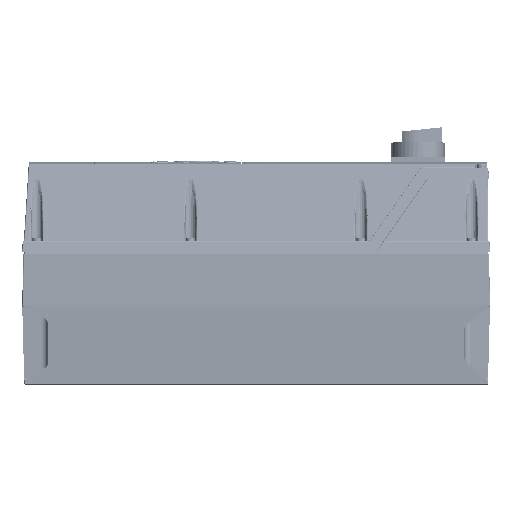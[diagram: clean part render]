
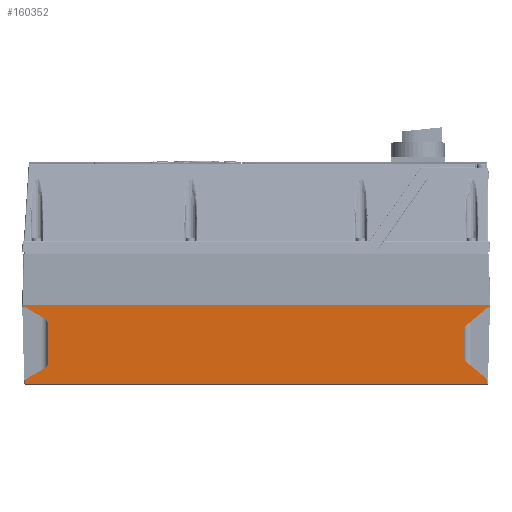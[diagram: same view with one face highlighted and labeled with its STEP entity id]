
A CAD part, left-side view. The second image highlights one B-rep face of the part: STEP entity #160352.
In plain terms, the highlighted planar face has unit normal (-1, 0, -0.026).
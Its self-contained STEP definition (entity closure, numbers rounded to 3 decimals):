
#12190=CARTESIAN_POINT('',(-120.983,-209.245,
10.616));
#12442=CARTESIAN_POINT('',(-119.673,-188.786,
-39.426));
#12443=CARTESIAN_POINT('',(-119.68,-188.488,
-39.176));
#12444=CARTESIAN_POINT('',(-119.694,-187.982,
-38.635));
#12445=CARTESIAN_POINT('',(-119.718,-187.435,
-37.724));
#12446=CARTESIAN_POINT('',(-119.744,-187.089,
-36.72));
#12447=CARTESIAN_POINT('',(-119.763,-187.,-35.984));
#12448=CARTESIAN_POINT('',(-119.773,-187.,-35.595));
#12594=CARTESIAN_POINT('',(-119.267,-207.267,
-54.933));
#12801=CARTESIAN_POINT('',(-120.434,-187.,-10.381));
#12802=CARTESIAN_POINT('',(-120.444,-187.,-9.992));
#12803=CARTESIAN_POINT('',(-120.463,-187.089,
-9.257));
#12804=CARTESIAN_POINT('',(-120.489,-187.435,
-8.252));
#12805=CARTESIAN_POINT('',(-120.513,-187.982,
-7.341));
#12806=CARTESIAN_POINT('',(-120.527,-188.488,
-6.8));
#12807=CARTESIAN_POINT('',(-120.534,-188.786,
-6.551));
#12809=DIRECTION('',(-0.013,-0.866,0.5));
#12810=VECTOR('',#12809,20.51);
#12811=CARTESIAN_POINT('',(-119.26,207.261,
-55.185));
#12812=LINE('',#12811,#12810);
#12813=DIRECTION('',(-0.026,0.,1.));
#12814=VECTOR('',#12813,35.698);
#12815=CARTESIAN_POINT('',(-119.642,187.,-40.601));
#12816=LINE('',#12815,#12814);
#12817=DIRECTION('',(-0.013,0.866,0.5));
#12818=VECTOR('',#12817,22.758);
#12819=CARTESIAN_POINT('',(-120.69,189.5,-0.586));
#12820=LINE('',#12819,#12818);
#12821=CARTESIAN_POINT('',(-121.,209.,11.25));
#12822=CARTESIAN_POINT('',(-121.,209.012,11.25));
#12823=CARTESIAN_POINT('',(-121.,209.029,
11.242));
#12824=CARTESIAN_POINT('',(-120.999,209.057,
11.217));
#12825=CARTESIAN_POINT('',(-120.998,209.084,
11.175));
#12826=CARTESIAN_POINT('',(-120.997,209.11,
11.119));
#12827=CARTESIAN_POINT('',(-120.994,209.141,
11.038));
#12828=CARTESIAN_POINT('',(-120.992,209.174,
10.93));
#12829=CARTESIAN_POINT('',(-120.989,209.196,
10.838));
#12830=CARTESIAN_POINT('',(-120.988,209.207,
10.792));
#12832=CARTESIAN_POINT('',(-120.983,-209.245,
10.616));
#12833=CARTESIAN_POINT('',(-120.985,-209.232,
10.679));
#12834=CARTESIAN_POINT('',(-120.987,-209.213,
10.771));
#12835=CARTESIAN_POINT('',(-120.991,-209.183,
10.891));
#12836=CARTESIAN_POINT('',(-120.993,-209.159,
10.978));
#12837=CARTESIAN_POINT('',(-120.995,-209.132,
11.062));
#12838=CARTESIAN_POINT('',(-120.997,-209.107,
11.127));
#12839=CARTESIAN_POINT('',(-120.998,-209.083,
11.176));
#12840=CARTESIAN_POINT('',(-120.999,-209.062,
11.209));
#12841=CARTESIAN_POINT('',(-121.,-209.037,
11.237));
#12842=CARTESIAN_POINT('',(-121.,-209.016,11.25));
#12843=CARTESIAN_POINT('',(-121.,-209.,11.25));
#12845=DIRECTION('',(0.017,0.766,-0.643));
#12846=VECTOR('',#12845,26.711);
#12847=CARTESIAN_POINT('',(-120.983,-209.245,
10.616));
#12848=LINE('',#12847,#12846);
#12849=DIRECTION('',(0.026,0.,-1.));
#12850=VECTOR('',#12849,25.223);
#12851=CARTESIAN_POINT('',(-120.434,-187.,-10.381));
#12852=LINE('',#12851,#12850);
#12853=DIRECTION('',(0.017,-0.766,-0.643));
#12854=VECTOR('',#12853,24.129);
#12855=CARTESIAN_POINT('',(-119.673,-188.786,
-39.426));
#12856=LINE('',#12855,#12854);
#12857=DIRECTION('',(0.026,0.026,-0.999));
#12858=VECTOR('',#12857,4.096);
#12859=CARTESIAN_POINT('',(-119.267,-207.267,
-54.933));
#12860=LINE('',#12859,#12858);
#12861=DIRECTION('',(0.,-1.,0.));
#12862=VECTOR('',#12861,414.32);
#12863=CARTESIAN_POINT('',(-119.16,207.16,
-59.026));
#12864=LINE('',#12863,#12862);
#12865=DIRECTION('',(-0.026,0.026,0.999));
#12866=VECTOR('',#12865,3.843);
#12867=CARTESIAN_POINT('',(-119.16,207.16,
-59.026));
#12868=LINE('',#12867,#12866);
#12911=CARTESIAN_POINT('',(-119.26,207.261,
-55.185));
#16692=CARTESIAN_POINT('',(-119.642,187.,-40.601));
#16693=CARTESIAN_POINT('',(-119.63,187.,-41.082));
#16694=CARTESIAN_POINT('',(-119.606,187.134,
-41.967));
#16695=CARTESIAN_POINT('',(-119.576,187.625,
-43.127));
#16696=CARTESIAN_POINT('',(-119.55,188.384,
-44.132));
#16697=CARTESIAN_POINT('',(-119.535,189.083,
-44.691));
#16698=CARTESIAN_POINT('',(-119.529,189.5,-44.931));
#16780=CARTESIAN_POINT('',(-120.69,189.5,-0.586));
#16781=CARTESIAN_POINT('',(-120.684,189.083,
-0.826));
#16782=CARTESIAN_POINT('',(-120.669,188.384,
-1.385));
#16783=CARTESIAN_POINT('',(-120.643,187.625,
-2.39));
#16784=CARTESIAN_POINT('',(-120.612,187.134,
-3.55));
#16785=CARTESIAN_POINT('',(-120.589,187.,-4.435));
#16786=CARTESIAN_POINT('',(-120.577,187.,-4.916));
#17046=DIRECTION('',(0.,-1.,0.));
#17047=VECTOR('',#17046,418.);
#17048=CARTESIAN_POINT('',(-121.,209.,11.25));
#17049=LINE('',#17048,#17047);
#125696=CARTESIAN_POINT('',(-121.,209.,11.25));
#125697=VERTEX_POINT('',#125696);
#125698=VERTEX_POINT('',#12830);
#125709=VERTEX_POINT('',#12190);
#125710=VERTEX_POINT('',#12843);
#125749=VERTEX_POINT('',#12911);
#125750=VERTEX_POINT('',#12594);
#125819=CARTESIAN_POINT('',(-119.16,207.16,
-59.026));
#125820=VERTEX_POINT('',#125819);
#125823=CARTESIAN_POINT('',(-119.16,-207.16,
-59.026));
#125824=VERTEX_POINT('',#125823);
#127638=CARTESIAN_POINT('',(-119.642,187.,-40.601));
#127639=CARTESIAN_POINT('',(-120.577,187.,-4.916));
#127640=VERTEX_POINT('',#127638);
#127641=VERTEX_POINT('',#127639);
#127642=CARTESIAN_POINT('',(-120.434,-187.,-10.381));
#127643=CARTESIAN_POINT('',(-119.773,-187.,-35.595));
#127644=VERTEX_POINT('',#127642);
#127645=VERTEX_POINT('',#127643);
#127652=CARTESIAN_POINT('',(-120.69,189.5,-0.586));
#127653=VERTEX_POINT('',#127652);
#127654=CARTESIAN_POINT('',(-120.534,-188.786,
-6.551));
#127655=VERTEX_POINT('',#127654);
#127660=CARTESIAN_POINT('',(-119.529,189.5,-44.931));
#127661=VERTEX_POINT('',#127660);
#127662=CARTESIAN_POINT('',(-119.673,-188.786,
-39.426));
#127663=VERTEX_POINT('',#127662);
#160319=CARTESIAN_POINT('',(-121.,210.,11.25));
#160320=DIRECTION('',(-1.,0.,-0.026));
#160321=DIRECTION('',(0.,-1.,0.));
#160322=AXIS2_PLACEMENT_3D('',#160319,#160320,#160321);
#160323=PLANE('',#160322);
#160325=ORIENTED_EDGE('',*,*,#160324,.T.);
#160327=ORIENTED_EDGE('',*,*,#160326,.F.);
#160329=ORIENTED_EDGE('',*,*,#160328,.T.);
#160331=ORIENTED_EDGE('',*,*,#160330,.F.);
#160333=ORIENTED_EDGE('',*,*,#160332,.T.);
#160335=ORIENTED_EDGE('',*,*,#160334,.F.);
#160337=ORIENTED_EDGE('',*,*,#160336,.T.);
#160338=ORIENTED_EDGE('',*,*,#159074,.F.);
#160339=ORIENTED_EDGE('',*,*,#159096,.T.);
#160340=ORIENTED_EDGE('',*,*,#160313,.F.);
#160341=ORIENTED_EDGE('',*,*,#159521,.T.);
#160342=ORIENTED_EDGE('',*,*,#159546,.F.);
#160343=ORIENTED_EDGE('',*,*,#159858,.T.);
#160345=ORIENTED_EDGE('',*,*,#160344,.T.);
#160347=ORIENTED_EDGE('',*,*,#160346,.F.);
#160349=ORIENTED_EDGE('',*,*,#160348,.T.);
#160350=EDGE_LOOP('',(#160325,#160327,#160329,#160331,#160333,#160335,#160337,
#160338,#160339,#160340,#160341,#160342,#160343,#160345,#160347,#160349));
#160351=FACE_OUTER_BOUND('',#160350,.F.);
#12449=B_SPLINE_CURVE_WITH_KNOTS('',3,(#12442,#12443,#12444,#12445,#12446,
#12447,#12448),.UNSPECIFIED.,.F.,.F.,(4,1,1,1,4),(0.,0.25,0.5,0.75,
1.),.UNSPECIFIED.);
#12808=B_SPLINE_CURVE_WITH_KNOTS('',3,(#12801,#12802,#12803,#12804,#12805,
#12806,#12807),.UNSPECIFIED.,.F.,.F.,(4,1,1,1,4),(0.,0.25,0.5,0.75,
1.),.UNSPECIFIED.);
#12831=B_SPLINE_CURVE_WITH_KNOTS('',3,(#12821,#12822,#12823,#12824,#12825,
#12826,#12827,#12828,#12829,#12830),.UNSPECIFIED.,.F.,.F.,(4,1,1,1,1,1,1,4),(
0.,0.063,0.125,0.25,0.375,0.5,0.75,1.),.UNSPECIFIED.);
#12844=B_SPLINE_CURVE_WITH_KNOTS('',3,(#12832,#12833,#12834,#12835,#12836,
#12837,#12838,#12839,#12840,#12841,#12842,#12843),.UNSPECIFIED.,.F.,.F.,(4,1,1,
1,1,1,1,1,1,4),(0.,0.25,0.375,0.5,0.625,0.75,0.813,0.875,
0.938,1.),.UNSPECIFIED.);
#16699=B_SPLINE_CURVE_WITH_KNOTS('',3,(#16692,#16693,#16694,#16695,#16696,
#16697,#16698),.UNSPECIFIED.,.F.,.F.,(4,1,1,1,4),(0.,0.25,0.5,0.75,
1.),.UNSPECIFIED.);
#16787=B_SPLINE_CURVE_WITH_KNOTS('',3,(#16780,#16781,#16782,#16783,#16784,
#16785,#16786),.UNSPECIFIED.,.F.,.F.,(4,1,1,1,4),(0.,0.25,0.5,0.75,
1.),.UNSPECIFIED.);
#159074=EDGE_CURVE('',#125709,#125710,#12844,.T.);
#159096=EDGE_CURVE('',#125709,#127655,#12848,.T.);
#159521=EDGE_CURVE('',#127644,#127645,#12852,.T.);
#159546=EDGE_CURVE('',#127663,#127645,#12449,.T.);
#159858=EDGE_CURVE('',#127663,#125750,#12856,.T.);
#160313=EDGE_CURVE('',#127644,#127655,#12808,.T.);
#160324=EDGE_CURVE('',#125749,#127661,#12812,.T.);
#160326=EDGE_CURVE('',#127640,#127661,#16699,.T.);
#160328=EDGE_CURVE('',#127640,#127641,#12816,.T.);
#160330=EDGE_CURVE('',#127653,#127641,#16787,.T.);
#160332=EDGE_CURVE('',#127653,#125698,#12820,.T.);
#160334=EDGE_CURVE('',#125697,#125698,#12831,.T.);
#160336=EDGE_CURVE('',#125697,#125710,#17049,.T.);
#160344=EDGE_CURVE('',#125750,#125824,#12860,.T.);
#160346=EDGE_CURVE('',#125820,#125824,#12864,.T.);
#160348=EDGE_CURVE('',#125820,#125749,#12868,.T.);
#160352=ADVANCED_FACE('',(#160351),#160323,.T.);
